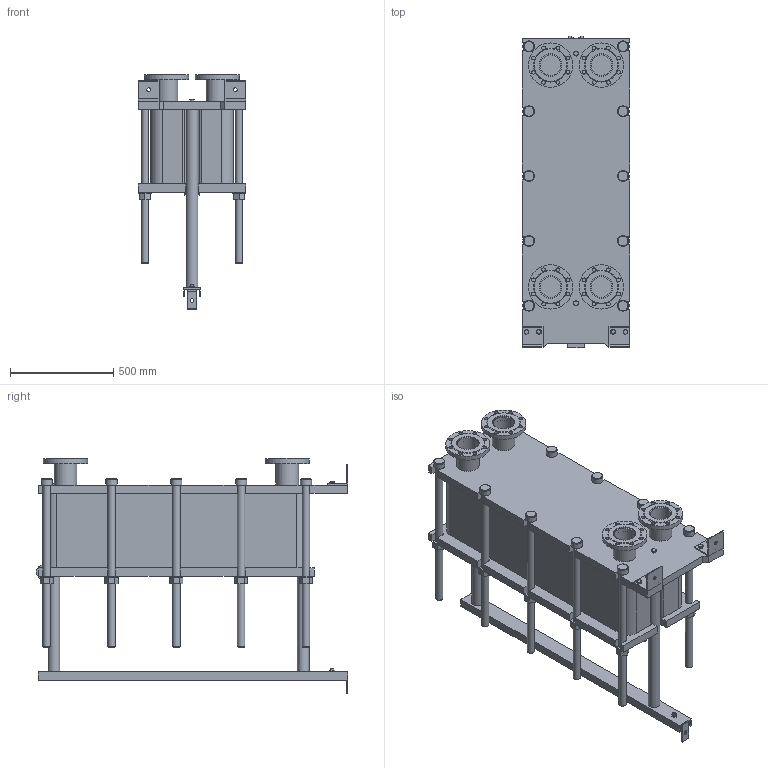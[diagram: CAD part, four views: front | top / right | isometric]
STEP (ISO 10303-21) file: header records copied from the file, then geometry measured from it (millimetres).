
FILE_DESCRIPTION(/* description */ (''),/* implementation_level */ '2;1');
FILE_NAME(/* name */ 'C:\Users\zhuro\Desktop\ENCO\TO\ЭН-04\ЭН-0,5-04-105-1.stp',/* time_stamp */ '2022-06-06T10:54:31+03:00',/* author */ ('zhuro'),/* organization */ (''),/* preprocessor_version */ 'ST-DEVELOPER v18.1',/* originating_system */ 'Autodesk Inventor 2022',/* authorisation */ '');
FILE_SCHEMA (('AUTOMOTIVE_DESIGN { 1 0 10303 214 3 1 1 }'));
Length unit declared in the file: millimetre
Products named in the file (1): ЭН-0,5-04-105-1
Bounding box: 520 x 1510 x 1142.5 mm (x, y, z)
Volume: 252511642.5 mm3; surface area: 8465212.4 mm2
Topology: 45 solids, 45 shells, 668 faces, 1611 edges, 1048 vertices
Faces by surface type: plane 457, cylinder 166, cone 39, torus 6
Full cylindrical faces by diameter (mm): 8 x4, 10 x2, 16 x8, 18 x35, 36 x25, 40 x2, 42 x1, 45 x4, 54 x10, 57 x2, 60 x10, 68 x2, 100 x4, 110 x8, 215 x4
Entity records: 23607 total; most frequent: CARTESIAN_POINT 7348, DIRECTION 3371, ORIENTED_EDGE 3142, EDGE_CURVE 1571, AXIS2_PLACEMENT_3D 1199, VERTEX_POINT 1044, LINE 973, VECTOR 973
